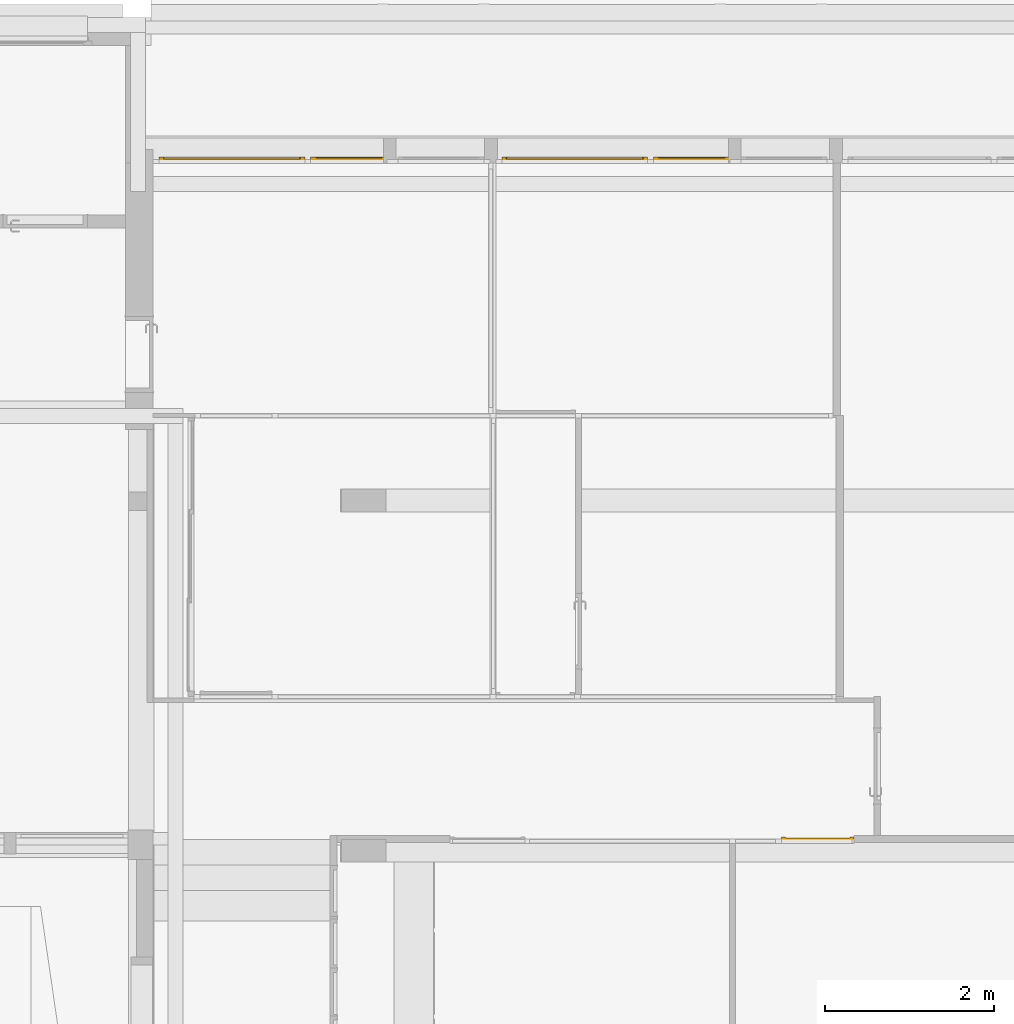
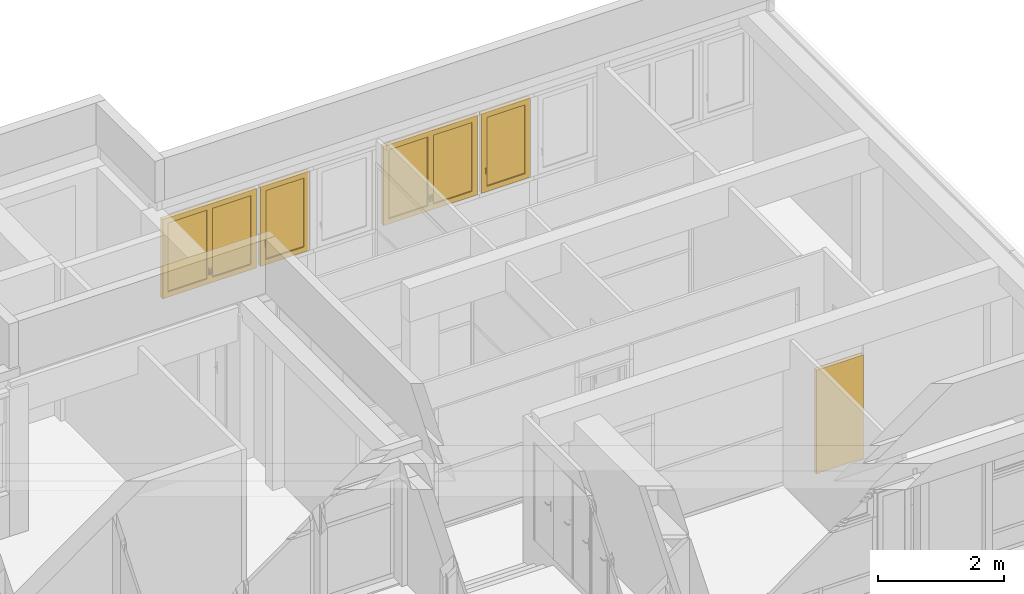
# One storey, part 40 of 49: 4 windows, 1 door, 3 elements without a shape of their own.
"""IFC4 building model written with IfcOpenShell, lengths in metres."""

from ifc_helpers import new_model, entity, si_unit, converted_unit, derived_unit, direction, frame, origin, place, context, subcontext, project, spatial, indexed_curve, outline, extrude, polygons, source, transform, mapped, material, material_list, constituent, constituent_set, type_object, type_shapes, element, aggregate, save


model = new_model("IFC4")

# Units and contexts
model_context = context("Model", 3, precision=1e-05, world=origin(), true_north=direction((6.12303176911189e-17, 1.0)))
body_context = subcontext(model_context, "Body", "Model", "MODEL_VIEW")
ifc_project = project(units=[si_unit("LENGTHUNIT", "METRE"), si_unit("AREAUNIT", "SQUARE_METRE"), si_unit("VOLUMEUNIT", "CUBIC_METRE"), converted_unit("PLANEANGLEUNIT", "DEGREE", entity("IfcRatioMeasure", 0.0174532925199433), si_unit("PLANEANGLEUNIT", "RADIAN"), dimensions=[0, 0, 0, 0, 0, 0, 0]), si_unit("MASSUNIT", "GRAM", prefix="KILO"), derived_unit("MASSDENSITYUNIT", [(si_unit("MASSUNIT", "GRAM", prefix="KILO"), 1), (si_unit("LENGTHUNIT", "METRE"), -3)]), derived_unit("MOMENTOFINERTIAUNIT", [(si_unit("LENGTHUNIT", "METRE"), 4)]), si_unit("TIMEUNIT", "SECOND"), si_unit("FREQUENCYUNIT", "HERTZ"), si_unit("THERMODYNAMICTEMPERATUREUNIT", "DEGREE_CELSIUS"), derived_unit("THERMALTRANSMITTANCEUNIT", [(si_unit("MASSUNIT", "GRAM", prefix="KILO"), 1), (si_unit("THERMODYNAMICTEMPERATUREUNIT", "KELVIN"), -1), (si_unit("TIMEUNIT", "SECOND"), -3)]), derived_unit("VOLUMETRICFLOWRATEUNIT", [(si_unit("LENGTHUNIT", "METRE"), 3), (si_unit("TIMEUNIT", "SECOND"), -1)]), si_unit("ELECTRICCURRENTUNIT", "AMPERE"), si_unit("ELECTRICVOLTAGEUNIT", "VOLT"), si_unit("POWERUNIT", "WATT"), si_unit("FORCEUNIT", "NEWTON", prefix="KILO"), si_unit("ILLUMINANCEUNIT", "LUX"), si_unit("LUMINOUSFLUXUNIT", "LUMEN"), si_unit("LUMINOUSINTENSITYUNIT", "CANDELA"), derived_unit("USERDEFINED", [(si_unit("MASSUNIT", "GRAM", prefix="KILO"), -1), (si_unit("LENGTHUNIT", "METRE"), -2), (si_unit("TIMEUNIT", "SECOND"), 3), (si_unit("LUMINOUSFLUXUNIT", "LUMEN"), 1)]), derived_unit("LINEARVELOCITYUNIT", [(si_unit("LENGTHUNIT", "METRE"), 1), (si_unit("TIMEUNIT", "SECOND"), -1)]), si_unit("PRESSUREUNIT", "PASCAL"), derived_unit("USERDEFINED", [(si_unit("LENGTHUNIT", "METRE"), -2), (si_unit("MASSUNIT", "GRAM", prefix="KILO"), 1), (si_unit("TIMEUNIT", "SECOND"), -2)]), derived_unit("LINEARFORCEUNIT", [(si_unit("MASSUNIT", "GRAM", prefix="KILO"), 1), (si_unit("LENGTHUNIT", "METRE"), 1), (si_unit("TIMEUNIT", "SECOND"), -2), (si_unit("LENGTHUNIT", "METRE"), -1)]), derived_unit("PLANARFORCEUNIT", [(si_unit("MASSUNIT", "GRAM", prefix="KILO"), 1), (si_unit("LENGTHUNIT", "METRE"), 1), (si_unit("TIMEUNIT", "SECOND"), -2), (si_unit("LENGTHUNIT", "METRE"), -2)])], contexts=[model_context])

# Site, building, storey
site_placement = place(None, origin())
site = spatial("IfcSite", under=ifc_project, at=site_placement, Name="Default", CompositionType="ELEMENT")
building_placement = place(site_placement, origin())
building = spatial("IfcBuilding", under=site, at=building_placement, Name="HOTEL CONSULAIRE BOULOGNE SUR MER", CompositionType="ELEMENT")
storey_placement = place(building_placement, frame((0.0, 0.0, 6.81974152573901)))
storey = spatial("IfcBuildingStorey", under=building, at=storey_placement, Name="Niveau 2", CompositionType="ELEMENT", Elevation=6.81974152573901)

# Curtain wall, window
curtain_wall_type = type_object("IfcCurtainWallType", Name="Mur-rideau:Simple panneau", PredefinedType="NOTDEFINED")
curtain_wall_1_placement = place(storey_placement, frame((0.0, 0.0, -6.81974152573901)))
curtain_wall_1 = element("IfcCurtainWall", 1, at=curtain_wall_1_placement, inside=storey, type_object=curtain_wall_type, Name="Mur-rideau:Simple panneau", ObjectType="Mur-rideau:Simple panneau", PredefinedType="NOTDEFINED")
ifc_material_1 = material(Name="PVC - Blanc", Category="Plastique")
ifc_constituent_1 = constituent(ifc_material_1, Name="PVC - Blanc", Category="Matériaux")
ifc_material_2 = material(Name="Fenêtre - Vitrage", Category="Verre")
ifc_constituent_2 = constituent(ifc_material_2, Name="Fenêtre - Vitrage", Category="Matériaux")
ifc_constituent_set_1 = constituent_set(constituents=[ifc_constituent_1, ifc_constituent_2], Name="MaterialConstituentSet")
ifc_material_list_1 = material_list([ifc_material_1, ifc_material_1])
window_type_1 = type_object("IfcWindowType", Name="MR 1 Vantail:MR 1 Vantail", PartitioningType="NOTDEFINED", PredefinedType="WINDOW", material=ifc_material_list_1)
shared_shape_1 = source(origin(), body_context, "Body", "Tessellation", [
    polygons([(-0.382646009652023, -0.0492408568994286, 0.472033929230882), (-0.371353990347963, -0.0492408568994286, 0.472033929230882), (-0.369966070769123, -0.0492408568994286, 0.470646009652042), (-0.369966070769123, -0.0492408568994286, 0.459332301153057), (-0.371332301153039, -0.0492408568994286, 0.457966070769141), (-0.382667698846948, -0.0492408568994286, 0.457966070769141), (-0.384033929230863, -0.0492408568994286, 0.459332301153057), (-0.384033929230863, -0.0492408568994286, 0.470646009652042), (-0.384033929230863, -0.0615795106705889, 0.470646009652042), (-0.382646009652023, -0.0621544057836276, 0.472033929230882), (-0.384033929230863, -0.0568932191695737, 0.459332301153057), (-0.384033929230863, -0.0635731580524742, 0.452652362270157), (-0.384033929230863, -0.063573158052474, 0.370000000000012), (-0.384033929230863, -0.0748868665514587, 0.370000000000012), (-0.384033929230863, -0.0748868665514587, 0.457338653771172), (-0.382667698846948, -0.0563273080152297, 0.457966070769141), (-0.371332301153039, -0.0563273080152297, 0.457966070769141), (-0.369966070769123, -0.0568932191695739, 0.459332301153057), (-0.369966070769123, -0.0615795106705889, 0.470646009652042), (-0.369966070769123, -0.0748868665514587, 0.457338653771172), (-0.369966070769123, -0.0748868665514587, 0.370000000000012), (-0.369966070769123, -0.0635731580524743, 0.370000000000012), (-0.369966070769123, -0.0635731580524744, 0.452652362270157), (-0.371353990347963, -0.0621544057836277, 0.472033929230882), (-0.382646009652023, -0.0762747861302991, 0.457913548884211), (-0.382667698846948, -0.0622069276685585, 0.452086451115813), (-0.371332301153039, -0.0622069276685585, 0.452086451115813), (-0.371353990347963, -0.076274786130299, 0.457913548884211), (-0.382646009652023, -0.076274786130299, 0.370000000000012), (-0.382667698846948, -0.0622069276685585, 0.370000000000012), (-0.371332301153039, -0.0622069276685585, 0.370000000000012), (-0.371353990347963, -0.076274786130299, 0.370000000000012)], [[[6, 7, 8, 1, 2, 3, 4, 5]], [[30, 26, 27, 31]], [[9, 10, 1, 8]], [[11, 12, 13, 14, 15, 9, 8, 7]], [[16, 11, 7, 6]], [[16, 6, 5, 17]], [[31, 22, 21, 32, 29, 14, 13, 30]], [[17, 5, 4, 18]], [[3, 19, 20, 21, 22, 23, 18, 4]], [[19, 3, 2, 24]], [[24, 2, 1, 10]], [[15, 25, 10, 9]], [[26, 12, 11, 16]], [[27, 26, 16, 17]], [[27, 17, 18, 23]], [[20, 19, 24, 28]], [[28, 24, 10, 25]], [[29, 25, 15, 14]], [[13, 12, 26, 30]], [[22, 31, 27, 23]], [[32, 21, 20, 28]], [[32, 28, 25, 29]]], closed=True),
    polygons([(-0.384000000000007, -0.0432408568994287, 0.490000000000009), (-0.369999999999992, -0.0432408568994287, 0.490000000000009), (-0.364999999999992, -0.0432408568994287, 0.48500000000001), (-0.364999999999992, -0.0432408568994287, 0.414999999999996), (-0.369999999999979, -0.0432408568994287, 0.410000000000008), (-0.384000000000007, -0.0432408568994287, 0.410000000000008), (-0.388999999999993, -0.0432408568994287, 0.414999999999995), (-0.388999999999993, -0.0432408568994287, 0.48500000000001), (-0.384000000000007, -0.0492408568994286, 0.490000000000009), (-0.388999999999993, -0.0492408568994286, 0.48500000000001), (-0.388999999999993, -0.0492408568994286, 0.414999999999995), (-0.384000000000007, -0.0492408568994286, 0.410000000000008), (-0.369999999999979, -0.0492408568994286, 0.410000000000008), (-0.364999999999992, -0.0492408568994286, 0.414999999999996), (-0.364999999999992, -0.0492408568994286, 0.48500000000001), (-0.369999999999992, -0.0492408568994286, 0.490000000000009)], [[[2, 3, 4, 5, 6, 7, 8, 1]], [[13, 14, 15, 16, 9, 10, 11, 12]], [[9, 1, 8, 10]], [[10, 8, 7, 11]], [[11, 7, 6, 12]], [[12, 6, 5, 13]], [[13, 5, 4, 14]], [[15, 14, 4, 3]], [[15, 3, 2, 16]], [[16, 2, 1, 9]]], closed=True),
    polygons([(0.351999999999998, -0.0192408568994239, 1.44128724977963), (-0.351999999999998, -0.0192408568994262, 1.44128724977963), (-0.351999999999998, -0.0192408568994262, 0.0999999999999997), (0.351999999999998, -0.0192408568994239, 0.0999999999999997), (0.351999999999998, -0.00724085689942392, 1.44128724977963), (0.351999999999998, -0.00724085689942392, 0.0999999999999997), (-0.351999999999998, -0.00724085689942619, 0.0999999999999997), (-0.351999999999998, -0.00724085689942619, 1.44128724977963)], [[[4, 1, 2, 3]], [[7, 8, 5, 6]], [[2, 1, 5, 8]], [[3, 2, 8, 7]], [[4, 3, 7, 6]], [[1, 4, 6, 5]]], closed=True),
    polygons([(-0.401999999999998, 0.0167591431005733, 1.49128724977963), (-0.401999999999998, -0.043240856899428, 1.49128724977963), (0.401999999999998, -0.043240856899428, 1.49128724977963), (0.401999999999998, 0.0167591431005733, 1.49128724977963), (-0.351999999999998, -0.043240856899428, 1.44128724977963), (-0.351999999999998, 0.0167591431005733, 1.44128724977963), (0.351999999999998, 0.0167591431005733, 1.44128724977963), (0.351999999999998, -0.043240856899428, 1.44128724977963), (0.401999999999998, -0.043240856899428, 0.0500000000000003), (0.401999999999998, 0.0167591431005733, 0.0500000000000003), (0.351999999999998, 0.0167591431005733, 0.0999999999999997), (0.351999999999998, -0.043240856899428, 0.0999999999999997), (-0.401999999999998, -0.043240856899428, 0.0500000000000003), (-0.401999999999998, 0.0167591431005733, 0.0500000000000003), (-0.351999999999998, 0.0167591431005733, 0.0999999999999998), (-0.351999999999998, -0.043240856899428, 0.0999999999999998)], [[[1, 2, 3, 4]], [[12, 11, 15, 16]], [[5, 6, 7, 8]], [[10, 9, 13, 14]], [[4, 3, 9, 10]], [[16, 15, 6, 5]], [[8, 7, 11, 12]], [[14, 13, 2, 1]], [[9, 3, 2, 13], [16, 5, 8, 12]], [[14, 1, 4, 10], [11, 7, 6, 15]]], closed=True),
    polygons([(-0.391999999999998, 0.016759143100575, 1.48128724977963), (-0.391999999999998, 0.0267591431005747, 1.48128724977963), (0.391999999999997, 0.0267591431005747, 1.48128724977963), (0.391999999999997, 0.016759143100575, 1.48128724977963), (-0.401999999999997, -0.0432408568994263, 1.49128724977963), (-0.401999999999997, 0.016759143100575, 1.49128724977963), (0.401999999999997, 0.016759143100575, 1.49128724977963), (0.401999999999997, -0.0432408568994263, 1.49128724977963), (-0.451999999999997, 0.0267591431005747, 1.54128724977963), (-0.451999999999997, -0.0432408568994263, 1.54128724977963), (0.451999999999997, -0.0432408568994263, 1.54128724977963), (0.451999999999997, 0.0267591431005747, 1.54128724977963), (0.391999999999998, 0.0267591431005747, 0.0600000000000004), (0.391999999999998, 0.016759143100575, 0.0600000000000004), (0.401999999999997, 0.016759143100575, 0.0500000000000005), (0.401999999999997, -0.0432408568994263, 0.0500000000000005), (0.451999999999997, -0.0432408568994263, 5.41433564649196e-16), (0.451999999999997, 0.0267591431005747, 5.41433564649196e-16), (-0.391999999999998, 0.0267591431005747, 0.0600000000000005), (-0.391999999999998, 0.016759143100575, 0.0600000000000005), (-0.401999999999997, 0.016759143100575, 0.0500000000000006), (-0.401999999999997, -0.0432408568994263, 0.0500000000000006), (-0.451999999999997, -0.0432408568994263, 6.09112760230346e-16), (-0.451999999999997, 0.0267591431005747, 6.09112760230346e-16)], [[[1, 2, 3, 4]], [[5, 6, 7, 8]], [[18, 17, 23, 24]], [[9, 10, 11, 12]], [[14, 13, 19, 20]], [[16, 15, 21, 22]], [[4, 3, 13, 14]], [[8, 7, 15, 16]], [[24, 23, 10, 9]], [[12, 11, 17, 18]], [[20, 19, 2, 1]], [[22, 21, 6, 5]], [[24, 9, 12, 18], [13, 3, 2, 19]], [[15, 7, 6, 21], [20, 1, 4, 14]], [[17, 11, 10, 23], [22, 5, 8, 16]]], closed=True),
])
type_shapes(window_type_1, [shared_shape_1])
window_1_placement = place(curtain_wall_1_placement, frame((13.9899585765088, -11.5914237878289, 7.92545427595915)))
window_1 = element("IfcWindow", 2, at=window_1_placement, type_object=window_type_1, material=ifc_constituent_set_1, Name="MR 1 Vantail:MR 1 Vantail", ObjectType="MR 1 Vantail:MR 1 Vantail", OverallHeight=1.54128724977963, OverallWidth=0.903999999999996, PartitioningType="NOTDEFINED", PredefinedType="WINDOW", context=body_context, shape_type="MappedRepresentation", body=[
    mapped(shared_shape_1, transform((0.0, 0.0, 0.0), scale=1.0)),
])

curtain_wall_2_placement = place(storey_placement, frame((0.0, 0.0, -6.81974152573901)))
curtain_wall_2 = element("IfcCurtainWall", 3, at=curtain_wall_2_placement, inside=storey, type_object=curtain_wall_type, Name="Mur-rideau:Simple panneau", ObjectType="Mur-rideau:Simple panneau", PredefinedType="NOTDEFINED")
ifc_constituent_3 = constituent(ifc_material_1, Name="PVC - Blanc", Category="Matériaux")
ifc_constituent_4 = constituent(ifc_material_2, Name="Fenêtre - Vitrage", Category="Matériaux")
ifc_constituent_set_2 = constituent_set(constituents=[ifc_constituent_3, ifc_constituent_4], Name="MaterialConstituentSet")
window_2_placement = place(curtain_wall_2_placement, frame((18.0514052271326, -11.5914237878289, 7.92545427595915)))
window_2 = element("IfcWindow", 4, at=window_2_placement, type_object=window_type_1, material=ifc_constituent_set_2, Name="MR 1 Vantail:MR 1 Vantail", ObjectType="MR 1 Vantail:MR 1 Vantail", OverallHeight=1.54128724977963, OverallWidth=0.903999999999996, PartitioningType="NOTDEFINED", PredefinedType="WINDOW", context=body_context, shape_type="MappedRepresentation", body=[
    mapped(shared_shape_1, transform((0.0, 0.0, 0.0), scale=1.0)),
])

# Window
ifc_constituent_5 = constituent(ifc_material_1, Name="PVC - Blanc", Category="Matériaux")
ifc_constituent_6 = constituent(ifc_material_2, Name="Fenêtre - Vitrage", Category="Matériaux")
ifc_constituent_set_3 = constituent_set(constituents=[ifc_constituent_5, ifc_constituent_6], Name="MaterialConstituentSet")
ifc_material_list_2 = material_list([ifc_material_1, ifc_material_1])
window_type_2 = type_object("IfcWindowType", Name="MR2 :MR2", PartitioningType="NOTDEFINED", PredefinedType="WINDOW", material=ifc_material_list_2)
shared_shape_2 = source(origin(), body_context, "Body", "Tessellation", [
    polygons([(-0.0173539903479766, 0.0492408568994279, 0.286556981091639), (-0.0286460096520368, 0.0492408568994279, 0.286556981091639), (-0.0300339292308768, 0.0492408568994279, 0.285169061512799), (-0.0300339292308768, 0.0492408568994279, 0.273855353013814), (-0.0286676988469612, 0.0492408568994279, 0.272489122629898), (-0.0173323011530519, 0.0492408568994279, 0.272489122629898), (-0.0159660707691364, 0.0492408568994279, 0.273855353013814), (-0.0159660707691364, 0.0492408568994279, 0.285169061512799), (-0.0159660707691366, 0.0615795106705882, 0.285169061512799), (-0.0173539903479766, 0.0621544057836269, 0.286556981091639), (-0.0159660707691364, 0.0568932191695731, 0.273855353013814), (-0.0159660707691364, 0.0635731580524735, 0.267175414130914), (-0.0159660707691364, 0.0635731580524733, 0.184523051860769), (-0.0159660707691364, 0.074886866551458, 0.184523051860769), (-0.0159660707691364, 0.074886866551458, 0.271861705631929), (-0.0173323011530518, 0.056327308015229, 0.272489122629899), (-0.0286676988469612, 0.056327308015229, 0.272489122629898), (-0.030033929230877, 0.0568932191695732, 0.273855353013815), (-0.0300339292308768, 0.0615795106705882, 0.285169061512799), (-0.0300339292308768, 0.074886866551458, 0.271861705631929), (-0.0300339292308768, 0.074886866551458, 0.184523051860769), (-0.0300339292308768, 0.0635731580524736, 0.184523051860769), (-0.0300339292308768, 0.0635731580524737, 0.267175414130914), (-0.0286460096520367, 0.062154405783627, 0.286556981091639), (-0.0173539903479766, 0.0762747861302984, 0.272436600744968), (-0.0173323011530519, 0.0622069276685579, 0.26660950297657), (-0.0286676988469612, 0.0622069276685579, 0.26660950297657), (-0.0286460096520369, 0.0762747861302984, 0.272436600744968), (-0.0173539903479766, 0.0762747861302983, 0.184523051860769), (-0.0173323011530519, 0.0622069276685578, 0.184523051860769), (-0.0286676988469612, 0.0622069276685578, 0.184523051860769), (-0.0286460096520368, 0.0762747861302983, 0.184523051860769)], [[[6, 7, 8, 1, 2, 3, 4, 5]], [[30, 26, 27, 31]], [[9, 10, 1, 8]], [[11, 12, 13, 14, 15, 9, 8, 7]], [[16, 11, 7, 6]], [[16, 6, 5, 17]], [[31, 22, 21, 32, 29, 14, 13, 30]], [[17, 5, 4, 18]], [[3, 19, 20, 21, 22, 23, 18, 4]], [[19, 3, 2, 24]], [[24, 2, 1, 10]], [[15, 25, 10, 9]], [[26, 12, 11, 16]], [[27, 26, 16, 17]], [[27, 17, 18, 23]], [[20, 19, 24, 28]], [[28, 24, 10, 25]], [[29, 25, 15, 14]], [[13, 12, 26, 30]], [[22, 31, 27, 23]], [[32, 21, 20, 28]], [[32, 28, 25, 29]]], closed=True),
    polygons([(-0.0159999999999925, 0.043240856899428, 0.304523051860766), (-0.0300000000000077, 0.043240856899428, 0.304523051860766), (-0.0350000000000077, 0.043240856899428, 0.299523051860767), (-0.0350000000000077, 0.043240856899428, 0.229523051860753), (-0.0300000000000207, 0.043240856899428, 0.224523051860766), (-0.0159999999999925, 0.043240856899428, 0.224523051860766), (-0.0110000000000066, 0.043240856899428, 0.229523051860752), (-0.0110000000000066, 0.043240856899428, 0.299523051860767), (-0.0159999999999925, 0.049240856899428, 0.304523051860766), (-0.0110000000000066, 0.049240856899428, 0.299523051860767), (-0.0110000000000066, 0.049240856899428, 0.229523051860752), (-0.0159999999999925, 0.049240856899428, 0.224523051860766), (-0.0300000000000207, 0.049240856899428, 0.224523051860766), (-0.0350000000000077, 0.049240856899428, 0.229523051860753), (-0.0350000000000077, 0.049240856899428, 0.299523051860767), (-0.0300000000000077, 0.049240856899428, 0.304523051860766)], [[[2, 3, 4, 5, 6, 7, 8, 1]], [[13, 14, 15, 16, 9, 10, 11, 12]], [[9, 1, 8, 10]], [[10, 8, 7, 11]], [[11, 7, 6, 12]], [[12, 6, 5, 13]], [[13, 5, 4, 14]], [[15, 14, 4, 3]], [[15, 3, 2, 16]], [[16, 2, 1, 9]]], closed=True),
    polygons([(0.0173539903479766, 0.0492408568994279, 0.286556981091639), (0.0159660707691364, 0.0492408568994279, 0.285169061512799), (0.0159660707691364, 0.0492408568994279, 0.273855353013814), (0.0173323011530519, 0.0492408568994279, 0.272489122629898), (0.0286676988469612, 0.0492408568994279, 0.272489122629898), (0.0300339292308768, 0.0492408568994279, 0.273855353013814), (0.0300339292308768, 0.0492408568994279, 0.285169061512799), (0.0286460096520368, 0.0492408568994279, 0.286556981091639), (0.0173539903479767, 0.062154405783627, 0.286556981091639), (0.0159660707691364, 0.0615795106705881, 0.285169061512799), (0.0159660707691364, 0.074886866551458, 0.271861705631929), (0.0159660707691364, 0.074886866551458, 0.184523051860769), (0.0159660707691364, 0.0635731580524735, 0.184523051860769), (0.0159660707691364, 0.0635731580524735, 0.267175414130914), (0.0159660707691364, 0.056893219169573, 0.273855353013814), (0.0173323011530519, 0.0563273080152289, 0.272489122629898), (0.0286676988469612, 0.0563273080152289, 0.272489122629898), (0.0300339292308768, 0.0568932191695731, 0.273855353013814), (0.0300339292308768, 0.0635731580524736, 0.267175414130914), (0.0300339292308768, 0.0635731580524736, 0.184523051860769), (0.0300339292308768, 0.074886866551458, 0.184523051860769), (0.0300339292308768, 0.0748868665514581, 0.271861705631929), (0.0300339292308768, 0.0615795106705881, 0.285169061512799), (0.0286460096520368, 0.0621544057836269, 0.286556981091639), (0.0173539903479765, 0.0762747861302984, 0.272436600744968), (0.0173323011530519, 0.0622069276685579, 0.26660950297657), (0.0286676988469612, 0.0622069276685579, 0.26660950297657), (0.0286460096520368, 0.0762747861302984, 0.272436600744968), (0.0173539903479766, 0.0762747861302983, 0.184523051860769), (0.0286460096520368, 0.0762747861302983, 0.184523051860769), (0.0286676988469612, 0.0622069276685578, 0.184523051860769), (0.0173323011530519, 0.0622069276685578, 0.184523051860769)], [[[5, 6, 7, 8, 1, 2, 3, 4]], [[27, 26, 32, 31]], [[2, 1, 9, 10]], [[2, 10, 11, 12, 13, 14, 15, 3]], [[4, 3, 15, 16]], [[5, 4, 16, 17]], [[32, 13, 12, 29, 30, 21, 20, 31]], [[6, 5, 17, 18]], [[6, 18, 19, 20, 21, 22, 23, 7]], [[8, 7, 23, 24]], [[1, 8, 24, 9]], [[10, 9, 25, 11]], [[16, 15, 14, 26]], [[17, 16, 26, 27]], [[18, 17, 27, 19]], [[24, 23, 22, 28]], [[9, 24, 28, 25]], [[11, 25, 29, 12]], [[26, 14, 13, 32]], [[19, 27, 31, 20]], [[28, 22, 21, 30]], [[25, 28, 30, 29]]], closed=True),
    polygons([(0.0159999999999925, 0.043240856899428, 0.304523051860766), (0.0110000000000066, 0.043240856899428, 0.299523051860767), (0.0110000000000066, 0.043240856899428, 0.229523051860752), (0.0159999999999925, 0.043240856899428, 0.224523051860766), (0.0300000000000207, 0.043240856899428, 0.224523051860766), (0.0350000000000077, 0.043240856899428, 0.229523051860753), (0.0350000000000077, 0.043240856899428, 0.299523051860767), (0.0300000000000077, 0.043240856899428, 0.304523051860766), (0.0159999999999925, 0.049240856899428, 0.304523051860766), (0.0300000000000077, 0.049240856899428, 0.304523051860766), (0.0350000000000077, 0.049240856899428, 0.299523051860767), (0.0350000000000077, 0.049240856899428, 0.229523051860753), (0.0300000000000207, 0.049240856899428, 0.224523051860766), (0.0159999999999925, 0.049240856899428, 0.224523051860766), (0.0110000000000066, 0.049240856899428, 0.229523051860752), (0.0110000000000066, 0.049240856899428, 0.299523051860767)], [[[1, 2, 3, 4, 5, 6, 7, 8]], [[14, 15, 16, 9, 10, 11, 12, 13]], [[2, 1, 9, 16]], [[3, 2, 16, 15]], [[4, 3, 15, 14]], [[5, 4, 14, 13]], [[6, 5, 13, 12]], [[7, 6, 12, 11]], [[8, 7, 11, 10]], [[1, 8, 10, 9]]], closed=True),
    polygons([(-0.05, 0.0192408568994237, 1.44128724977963), (-0.05, 0.0192408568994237, 0.1), (-0.763499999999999, 0.019240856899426, 0.1), (-0.763499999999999, 0.019240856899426, 1.44128724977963), (-0.05, 0.00724085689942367, 1.44128724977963), (-0.763499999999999, 0.00724085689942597, 1.44128724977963), (-0.763499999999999, 0.00724085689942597, 0.1), (-0.0500000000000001, 0.00724085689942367, 0.1)], [[[4, 1, 2, 3]], [[8, 5, 6, 7]], [[5, 1, 4, 6]], [[6, 4, 3, 7]], [[7, 3, 2, 8]], [[8, 2, 1, 5]]], closed=True),
    polygons([(-0.813499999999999, 0.0432408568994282, 0.05), (0.0, 0.0432408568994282, 0.05), (0.0, -0.00675914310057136, 0.05), (-0.813499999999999, -0.00675914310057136, 0.05), (-0.763499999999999, -0.00675914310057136, 0.1), (-0.05, -0.00675914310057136, 0.1), (-0.05, 0.0432408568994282, 0.1), (-0.763499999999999, 0.0432408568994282, 0.1), (0.0, 0.0432408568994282, 1.49128724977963), (0.0, -0.00675914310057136, 1.49128724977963), (-0.05, -0.00675914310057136, 1.44128724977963), (-0.05, 0.0432408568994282, 1.44128724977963), (-0.813499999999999, 0.0432408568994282, 1.49128724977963), (-0.813499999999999, -0.00675914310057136, 1.49128724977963), (-0.763499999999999, 0.0432408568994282, 1.44128724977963), (-0.763499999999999, -0.00675914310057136, 1.44128724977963)], [[[3, 4, 1, 2]], [[16, 15, 12, 11]], [[6, 7, 8, 5]], [[14, 10, 9, 13]], [[9, 10, 3, 2]], [[5, 8, 15, 16]], [[11, 12, 7, 6]], [[1, 4, 14, 13]], [[9, 2, 1, 13], [7, 12, 15, 8]], [[3, 10, 14, 4], [11, 6, 5, 16]]], closed=True),
    polygons([(0.763499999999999, 0.0192408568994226, 1.46128724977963), (0.763499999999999, 0.0192408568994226, 0.100000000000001), (0.05, 0.0192408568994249, 0.100000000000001), (0.05, 0.0192408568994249, 1.46128724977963), (0.763499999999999, 0.00724085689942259, 1.46128724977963), (0.05, 0.0072408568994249, 1.46128724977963), (0.05, 0.0072408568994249, 0.100000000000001), (0.763499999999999, 0.00724085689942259, 0.100000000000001)], [[[4, 1, 2, 3]], [[5, 6, 7, 8]], [[5, 1, 4, 6]], [[6, 4, 3, 7]], [[7, 3, 2, 8]], [[8, 2, 1, 5]]], closed=True),
    polygons([(0.763499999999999, 0.0432408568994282, 0.100000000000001), (0.05, 0.0432408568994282, 0.100000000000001), (0.05, -0.00675914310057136, 0.100000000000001), (0.763499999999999, -0.00675914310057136, 0.100000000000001), (0.813499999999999, -0.00675914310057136, 0.0500000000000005), (0.0, -0.00675914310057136, 0.0500000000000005), (0.0, 0.0432408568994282, 0.0500000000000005), (0.813499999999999, 0.0432408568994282, 0.0500000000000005), (0.05, 0.0432408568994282, 1.44128724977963), (0.05, -0.00675914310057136, 1.44128724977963), (0.0, -0.00675914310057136, 1.49128724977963), (0.0, 0.0432408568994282, 1.49128724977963), (0.813499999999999, -0.00675914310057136, 1.49128724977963), (0.763499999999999, -0.00675914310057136, 1.44128724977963), (0.763499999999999, 0.0432408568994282, 1.44128724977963), (0.813499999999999, 0.0432408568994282, 1.49128724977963)], [[[3, 4, 1, 2]], [[13, 16, 12, 11]], [[6, 7, 8, 5]], [[14, 10, 9, 15]], [[9, 10, 3, 2]], [[5, 8, 16, 13]], [[11, 12, 7, 6]], [[1, 4, 14, 15]], [[11, 6, 5, 13], [3, 10, 14, 4]], [[7, 12, 16, 8], [9, 2, 1, 15]]], closed=True),
    polygons([(-0.803499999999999, -0.016759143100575, 1.48128724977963), (0.803499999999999, -0.016759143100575, 1.48128724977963), (0.803499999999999, -0.0267591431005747, 1.48128724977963), (-0.803499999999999, -0.0267591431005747, 1.48128724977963), (-0.813499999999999, 0.0432408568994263, 1.49128724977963), (0.813499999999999, 0.0432408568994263, 1.49128724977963), (0.813499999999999, -0.016759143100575, 1.49128724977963), (-0.813499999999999, -0.016759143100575, 1.49128724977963), (-0.863499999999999, -0.0267591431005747, 1.54128724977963), (0.863499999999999, -0.0267591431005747, 1.54128724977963), (0.863499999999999, 0.0432408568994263, 1.54128724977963), (-0.863499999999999, 0.0432408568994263, 1.54128724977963), (0.803499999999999, -0.016759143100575, 0.0600000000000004), (0.803499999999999, -0.0267591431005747, 0.0600000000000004), (0.813499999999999, 0.0432408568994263, 0.0500000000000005), (0.813499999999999, -0.016759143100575, 0.0500000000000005), (0.863499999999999, -0.0267591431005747, 5.41433564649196e-16), (0.863499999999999, 0.0432408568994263, 5.41433564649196e-16), (-0.803499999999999, -0.016759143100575, 0.0600000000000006), (-0.803499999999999, -0.0267591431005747, 0.0600000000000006), (-0.813499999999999, 0.0432408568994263, 0.0500000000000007), (-0.813499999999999, -0.016759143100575, 0.0500000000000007), (-0.863499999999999, -0.0267591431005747, 5.41433564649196e-16), (-0.863499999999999, 0.0432408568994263, 5.41433564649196e-16)], [[[2, 3, 4, 1]], [[7, 8, 5, 6]], [[24, 18, 17, 23]], [[11, 12, 9, 10]], [[19, 20, 14, 13]], [[22, 16, 15, 21]], [[13, 14, 3, 2]], [[16, 7, 6, 15]], [[12, 24, 23, 9]], [[18, 11, 10, 17]], [[1, 4, 20, 19]], [[8, 22, 21, 5]], [[23, 17, 10, 9], [14, 20, 4, 3]], [[16, 22, 8, 7], [19, 13, 2, 1]], [[18, 24, 12, 11], [21, 15, 6, 5]]], closed=True),
])
type_shapes(window_type_2, [shared_shape_2])
window_3_placement = place(curtain_wall_1_placement, frame((12.6044585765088, -11.5914237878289, 7.92545427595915), z_axis=(0.0, 0.0, 1.0), x_axis=(-1.0, 0.0, 0.0)))
window_3 = element("IfcWindow", 5, at=window_3_placement, type_object=window_type_2, material=ifc_constituent_set_3, Name="MR2 :MR2", ObjectType="MR2 :MR2", OverallHeight=1.54128724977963, OverallWidth=1.727, PartitioningType="NOTDEFINED", PredefinedType="WINDOW", context=body_context, shape_type="MappedRepresentation", body=[
    mapped(shared_shape_2, transform((0.0, 0.0, 0.0), scale=1.0)),
])

aggregate(curtain_wall_1, [window_1, window_3])

ifc_constituent_7 = constituent(ifc_material_1, Name="PVC - Blanc", Category="Matériaux")
ifc_constituent_8 = constituent(ifc_material_2, Name="Fenêtre - Vitrage", Category="Matériaux")
ifc_constituent_set_4 = constituent_set(constituents=[ifc_constituent_7, ifc_constituent_8], Name="MaterialConstituentSet")
window_4_placement = place(curtain_wall_2_placement, frame((16.6659052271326, -11.5914237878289, 7.92545427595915), z_axis=(0.0, 0.0, 1.0), x_axis=(-1.0, 0.0, 0.0)))
window_4 = element("IfcWindow", 6, at=window_4_placement, type_object=window_type_2, material=ifc_constituent_set_4, Name="MR2 :MR2", ObjectType="MR2 :MR2", OverallHeight=1.54128724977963, OverallWidth=1.727, PartitioningType="NOTDEFINED", PredefinedType="WINDOW", context=body_context, shape_type="MappedRepresentation", body=[
    mapped(shared_shape_2, transform((0.0, 0.0, 0.0), scale=1.0)),
])

aggregate(curtain_wall_2, [window_2, window_4])

# Curtain wall, door
curtain_wall_3_placement = place(storey_placement, frame((0.0, 0.0, -6.81974152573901)))
curtain_wall_3 = element("IfcCurtainWall", 7, at=curtain_wall_3_placement, inside=storey, type_object=curtain_wall_type, Name="Mur-rideau:Simple panneau", ObjectType="Mur-rideau:Simple panneau", PredefinedType="NOTDEFINED")
ifc_constituent_9 = constituent(ifc_material_1, Name="PVC - Blanc", Category="Matériaux")
ifc_material_3 = material(Name="Porte - Panneau", Category="Bois")
ifc_constituent_10 = constituent(ifc_material_3, Name="Porte - Panneau", Category="Matériaux")
ifc_constituent_set_5 = constituent_set(constituents=[ifc_constituent_9, ifc_constituent_10], Name="MaterialConstituentSet")
ifc_material_list_3 = material_list([ifc_material_1, ifc_material_1, ifc_material_3, ifc_material_1])
door_type = type_object("IfcDoorType", Name="Porte simple:Porte simple", OperationType="SINGLE_SWING_RIGHT", PredefinedType="DOOR", material=ifc_material_list_3)
shared_shape_3 = source(origin(), body_context, "Body", "SweptSolid", [
    extrude(outline(indexed_curve([(0.380500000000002, -0.997999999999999), (0.430500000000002, -0.997999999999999), (0.430500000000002, 1.023), (-0.430500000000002, 1.023), (-0.430500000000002, -0.997999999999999), (-0.380500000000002, -0.997999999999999), (-0.380500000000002, 0.972999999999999), (0.380500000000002, 0.972999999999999), (0.380500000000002, -0.997999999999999)], self_intersect=False)), frame((0.0, -0.045, 0.997999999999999), z_axis=(0.0, 1.0, 0.0), x_axis=(-1.0, 0.0, 0.0)), (0.0, 0.0, 1.0), 0.07),
    extrude(outline(indexed_curve([(-0.380500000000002, -0.025), (0.380500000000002, -0.025), (0.380500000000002, 0.025), (-0.380500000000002, 0.025), (-0.380500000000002, -0.025)], self_intersect=False)), frame((0.0, -0.00999999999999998, 0.0), z_axis=(0.0, 0.0, 1.0), x_axis=(-1.0, 0.0, 0.0)), (0.0, 0.0, 1.0), 1.971),
])
type_shapes(door_type, [shared_shape_3])
door_placement = place(curtain_wall_3_placement, frame((19.5458568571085, -19.643155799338, 6.81974152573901)))
door = element("IfcDoor", 8, at=door_placement, type_object=door_type, material=ifc_constituent_set_5, Name="Porte simple:Porte simple", ObjectType="Porte simple:Porte simple", OperationType="SINGLE_SWING_RIGHT", OverallHeight=2.021, OverallWidth=0.861000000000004, PredefinedType="DOOR", context=body_context, shape_type="MappedRepresentation", body=[
    mapped(shared_shape_3, transform((0.0, 0.0, 0.0), scale=1.0)),
])
aggregate(curtain_wall_3, [door])

save(model, "model.ifc")
